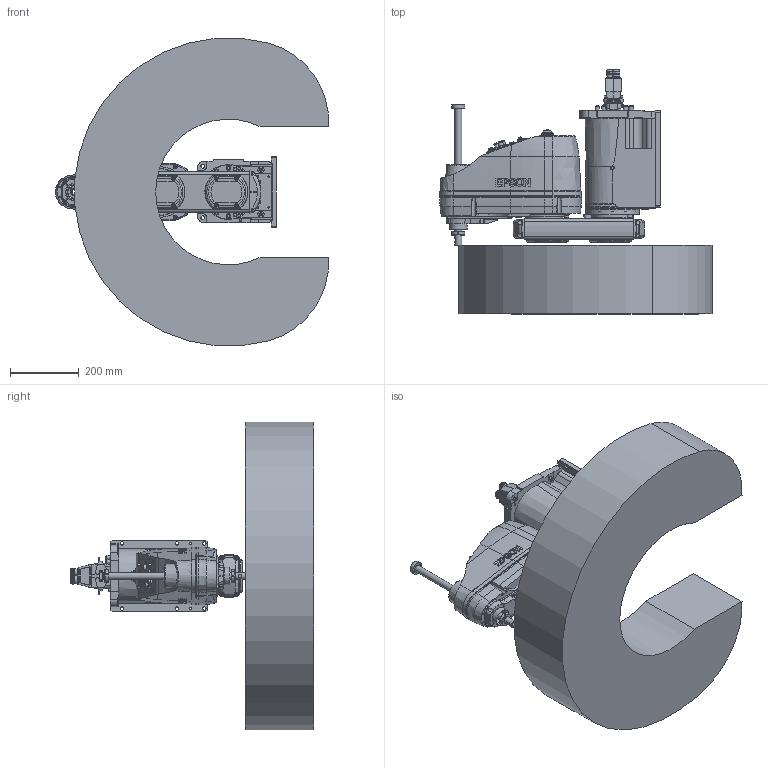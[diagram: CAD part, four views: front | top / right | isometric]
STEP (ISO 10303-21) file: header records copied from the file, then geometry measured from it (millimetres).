
FILE_DESCRIPTION( ( 'STEP AP214' ), '1' );
FILE_NAME( 'C:/Users/9607552/Desktop/GX8-B452SW_straight.stp', '2023-07-07T02:06:32', ( '' ), ( '' ), ' ', 'PARTsolutions', ' ' );
FILE_SCHEMA( ( 'AUTOMOTIVE_DESIGN { 1 0 10303 214 1 1 1 1 }' ) );
Length unit declared in the file: millimetre
Products named in the file (9): GX8-B452SWS-W; _B452SW_BASE; _B452SR; _B452SR_1; _B452SR_2; _B452S_J2; _B452SZA; _Straight-B; _GX8-15-B_WS
Assembly tree (10 placements, depth 2):
  GX8-B452SWS-W
    _B452SW_BASE
    _B452SR
    _B452SR_1  x2
    _B452SR_2  x2
    _B452S_J2
    _B452SZA
    _Straight-B
    _GX8-15-B_WS
Bounding box: 796.98 x 711.85 x 896.58 mm (x, y, z)
Volume: 96378445.7 mm3; surface area: 2548445.2 mm2
Topology: 10 solids, 10 shells, 2895 faces, 7087 edges, 4624 vertices
Faces by surface type: plane 1449, cylinder 931, cone 350, torus 122, bspline 37, sphere 6
Full cylindrical faces by diameter (mm): 1 x48, 1.18 x55, 2.261 x4, 2.459 x12, 3 x32, 3.242 x18, 3.3 x5, 3.9 x4, 4 x4, 4.2 x8, 4.5 x4, 4.8 x5, 5.34 x4, 5.5 x17, 6 x2, 6.2 x4, 6.647 x4, 6.8 x2, 7 x42, 8 x5, 8.5 x4, 9 x24, 10 x24, 11 x4, 11.2 x5, 11.5 x1, 12 x5, 12.25 x1, 13 x7, 13.2 x12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
Entity records: 103376 total; most frequent: CARTESIAN_POINT 19517, DIRECTION 12767, ORIENTED_EDGE 11810, EDGE_CURVE 5905, AXIS2_PLACEMENT_3D 4918, VERTEX_POINT 4251, EDGE_LOOP 3839, FACE_OUTER_BOUND 3194
